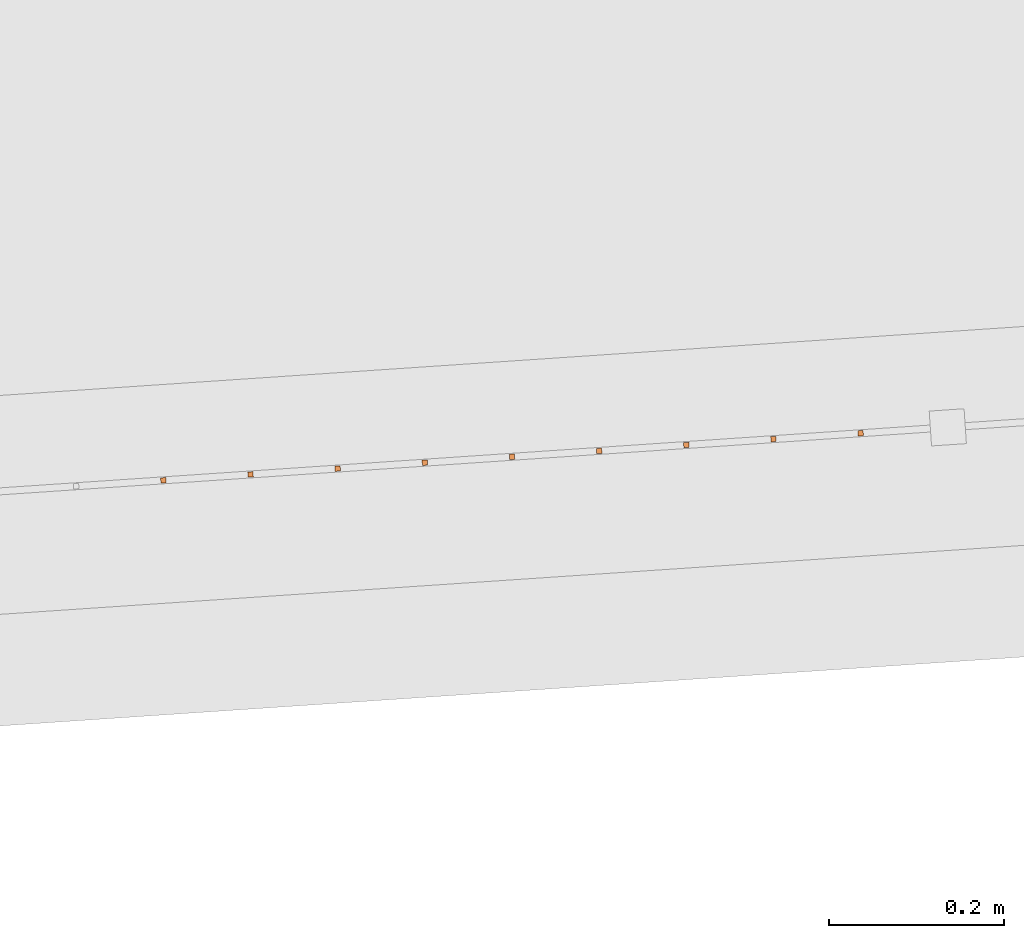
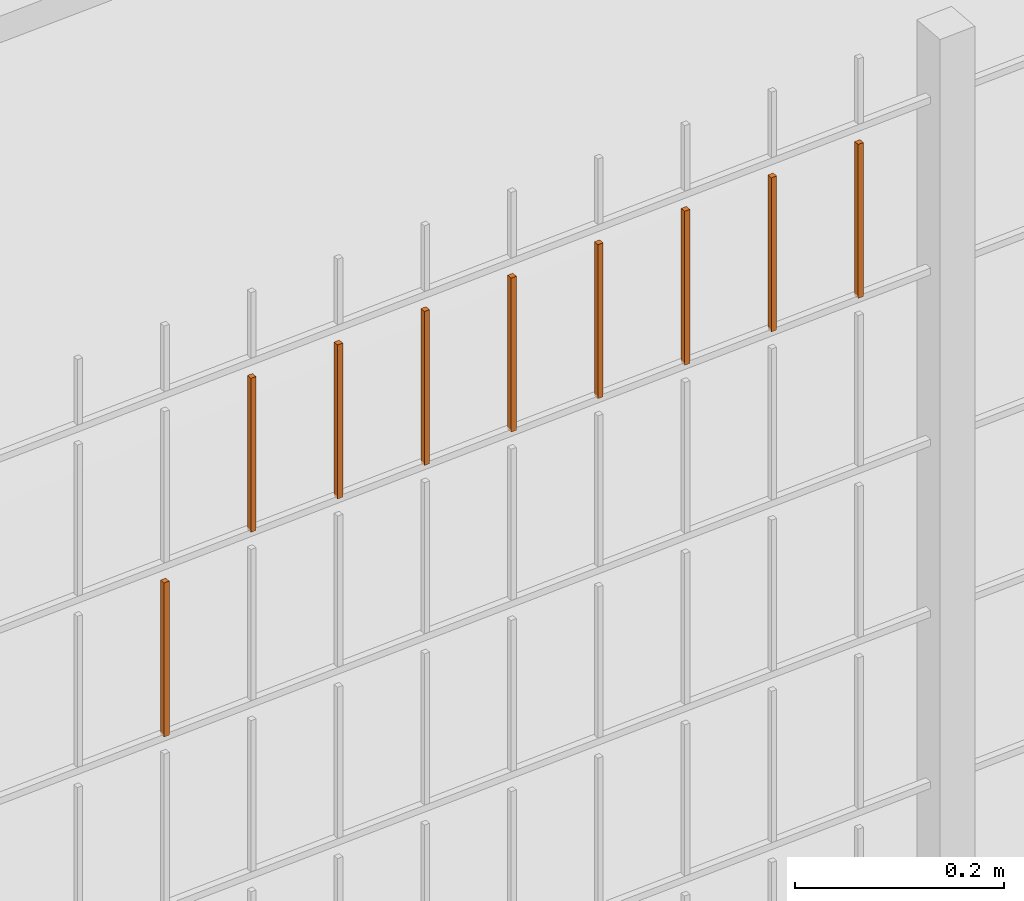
# One storey, part 264 of 1809: 9 proxies, 1 element without a shape of its own.
"""IFC2X3 building model written with IfcOpenShell, lengths in millimetres."""

from ifc_helpers import new_model, entity, si_unit, converted_unit, derived_unit, money_unit, direction, frame, origin_with_axes, place, context, subcontext, project, spatial, faceted_brep, source, transform, mapped, material, type_object, element, aggregate, save


model = new_model("IFC2X3")

# Units and contexts
model_context = context("Model", 3, precision=0.01, world=origin_with_axes(), true_north=direction((0.0, 1.0)))
body_context = subcontext(model_context, "Body", "Model", "MODEL_VIEW")
ifc_project = project(units=[si_unit("LENGTHUNIT", "METRE", prefix="MILLI"), si_unit("AREAUNIT", "SQUARE_METRE"), si_unit("VOLUMEUNIT", "CUBIC_METRE"), converted_unit("PLANEANGLEUNIT", "DEGREE", entity("IfcPlaneAngleMeasure", 0.0174532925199), si_unit("PLANEANGLEUNIT", "RADIAN"), dimensions=[0, 0, 0, 0, 0, 0, 0]), si_unit("SOLIDANGLEUNIT", "STERADIAN"), money_unit("EUR"), converted_unit("TIMEUNIT", "Year", entity("IfcTimeMeasure", 31556926.0), si_unit("TIMEUNIT", "SECOND"), dimensions=[0, 0, 1, 0, 0, 0, 0]), si_unit("MASSUNIT", "GRAM", prefix="KILO"), si_unit("THERMODYNAMICTEMPERATUREUNIT", "DEGREE_CELSIUS"), si_unit("LUMINOUSINTENSITYUNIT", "LUMEN"), si_unit("ENERGYUNIT", "JOULE", prefix="MEGA"), derived_unit("THERMALCONDUCTANCEUNIT", [(si_unit("POWERUNIT", "WATT"), 1), (si_unit("LENGTHUNIT", "METRE"), -1), (si_unit("THERMODYNAMICTEMPERATUREUNIT", "KELVIN"), -1)]), derived_unit("SPECIFICHEATCAPACITYUNIT", [(si_unit("ENERGYUNIT", "JOULE"), 1), (si_unit("MASSUNIT", "GRAM", prefix="KILO"), -1), (si_unit("THERMODYNAMICTEMPERATUREUNIT", "KELVIN"), -1)]), derived_unit("MASSDENSITYUNIT", [(si_unit("MASSUNIT", "GRAM", prefix="KILO"), 1), (si_unit("VOLUMEUNIT", "CUBIC_METRE"), -1)])], contexts=[model_context])

# Site, building, storey
site_placement = place(None, origin_with_axes())
site = spatial("IfcSite", under=ifc_project, at=site_placement, Name="Politse- ja Piirivalveameti ning Päästeameti ühishoone", CompositionType="ELEMENT")
building_placement = place(site_placement, origin_with_axes())
building = spatial("IfcBuilding", under=site, at=building_placement, Name="Politse- ja Piirivalveameti ning Päästeameti ühishoone", CompositionType="ELEMENT")
storey_placement = place(building_placement, origin_with_axes())
storey = spatial("IfcBuildingStorey", under=building, at=storey_placement, Name="Esimene korrus", CompositionType="ELEMENT", Elevation=0.0)

# Proxies
building_element_proxy_type_1 = type_object("IfcBuildingElementProxyType", Name="Railing Type", PredefinedType="NOTDEFINED")
proxy_1_placement = place(storey_placement, frame((89252.001212, -29183.4766571, 203.661247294), z_axis=(0.0, 0.0, 1.0), x_axis=(1.0, 0.0, 0.0)))
proxy_1 = element("IfcBuildingElementProxy", 1, at=proxy_1_placement, inside=storey, type_object=building_element_proxy_type_1, Name="PIIRDEAED")
ifc_material = material(Name="ET-03_Raud")
building_element_proxy_type_2 = type_object("IfcBuildingElementProxyType", Name="IfcBuildingElementProxy", PredefinedType="NOTDEFINED")
shared_shape_1 = source(origin_with_axes(), body_context, "Body", "Brep", [
    faceted_brep([(3.0, 3.0, -0.000752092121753), (-3.0, 3.0, -0.000752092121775), (-3.0, 3.0, 179.99926046), (3.0, 3.0, 179.99926046), (3.0, -3.0, 0.000752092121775), (-3.0, -3.0, 0.000752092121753), (-3.0, -3.0, 180.000764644), (3.0, -3.0, 180.000764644)], [[[0, 1, 2, 3]], [[0, 4, 5, 1]], [[1, 5, 6, 2]], [[3, 2, 6, 7]], [[4, 0, 3, 7]], [[5, 4, 7, 6]]]),
])
proxy_2_placement = place(proxy_1_placement, frame((-57695.2207427, -21194.8691889, 1812.73738669), z_axis=(0.0, 0.0, 1.0), x_axis=(1.0, 0.0, 0.0)))
proxy_2 = element("IfcBuildingElementProxy", 2, at=proxy_2_placement, type_object=building_element_proxy_type_2, material=ifc_material, Name="BALUSTER - 001", context=body_context, shape_type="MappedRepresentation", body=[
    mapped(shared_shape_1, transform((0.0, 0.0, 0.0), x_axis=(-0.0673926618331, 0.997726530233, 0.0), y_axis=(-0.997726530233, -0.0673926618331, 0.0), z_axis=(0.0, 0.0, 1.0))),
])
proxy_3_placement = place(proxy_1_placement, frame((-57794.9933957, -21201.608455, 1812.71231696), z_axis=(0.0, 0.0, 1.0), x_axis=(1.0, 0.0, 0.0)))
proxy_3 = element("IfcBuildingElementProxy", 3, at=proxy_3_placement, type_object=building_element_proxy_type_2, material=ifc_material, Name="BALUSTER - 001", context=body_context, shape_type="MappedRepresentation", body=[
    mapped(shared_shape_1, transform((0.0, 0.0, 0.0), x_axis=(-0.0673926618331, 0.997726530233, 0.0), y_axis=(-0.997726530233, -0.0673926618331, 0.0), z_axis=(0.0, 0.0, 1.0))),
])
shared_shape_2 = source(origin_with_axes(), body_context, "Body", "Brep", [
    faceted_brep([(3.0, 3.0, -0.000752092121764), (-3.0, 3.0, -0.000752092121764), (-3.0, 3.0, 179.99926046), (3.0, 3.0, 179.99926046), (3.0, -3.0, 0.000752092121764), (-3.0, -3.0, 0.000752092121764), (-3.0, -3.0, 180.000764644), (3.0, -3.0, 180.000764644)], [[[0, 1, 2, 3]], [[0, 4, 5, 1]], [[1, 5, 6, 2]], [[3, 2, 6, 7]], [[4, 0, 3, 7]], [[5, 4, 7, 6]]]),
])
proxy_4_placement = place(proxy_1_placement, frame((-57296.1301306, -21167.9121241, 1812.83766564), z_axis=(0.0, 0.0, 1.0), x_axis=(1.0, 0.0, 0.0)))
proxy_4 = element("IfcBuildingElementProxy", 4, at=proxy_4_placement, type_object=building_element_proxy_type_2, material=ifc_material, Name="BALUSTER - 001", context=body_context, shape_type="MappedRepresentation", body=[
    mapped(shared_shape_2, transform((0.0, 0.0, 0.0), x_axis=(-0.0673926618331, 0.997726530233, 0.0), y_axis=(-0.997726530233, -0.0673926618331, 0.0), z_axis=(0.0, 0.0, 1.0))),
])
shared_shape_3 = source(origin_with_axes(), body_context, "Body", "Brep", [
    faceted_brep([(3.0, 3.0, -0.000752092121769), (-3.0, 3.0, -0.000752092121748), (-3.0, 3.0, 179.99926046), (3.0, 3.0, 179.99926046), (3.0, -3.0, 0.000752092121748), (-3.0, -3.0, 0.000752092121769), (-3.0, -3.0, 180.000764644), (3.0, -3.0, 180.000764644)], [[[0, 1, 2, 3]], [[0, 4, 5, 1]], [[1, 5, 6, 2]], [[3, 2, 6, 7]], [[4, 0, 3, 7]], [[5, 4, 7, 6]]]),
])
proxy_5_placement = place(proxy_1_placement, frame((-57994.5387017, -21215.0869874, 1812.66217748), z_axis=(0.0, 0.0, 1.0), x_axis=(1.0, 0.0, 0.0)))
proxy_5 = element("IfcBuildingElementProxy", 5, at=proxy_5_placement, type_object=building_element_proxy_type_2, material=ifc_material, Name="BALUSTER - 001", context=body_context, shape_type="MappedRepresentation", body=[
    mapped(shared_shape_3, transform((0.0, 0.0, 0.0), x_axis=(-0.0673926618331, 0.997726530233, 0.0), y_axis=(-0.997726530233, -0.0673926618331, 0.0), z_axis=(0.0, 0.0, 1.0))),
])
shared_shape_4 = source(origin_with_axes(), body_context, "Body", "Brep", [
    faceted_brep([(3.0, 3.0, -0.000752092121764), (-3.0, 3.0, -0.000752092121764), (-3.0, 3.0, 179.99926046), (3.0, 3.0, 179.99926046), (3.0, -3.0, 0.000752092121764), (-3.0, -3.0, 0.000752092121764), (-3.0, -3.0, 180.000764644), (3.0, -3.0, 180.000764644)], [[[0, 1, 2, 3]], [[0, 4, 5, 1]], [[1, 5, 6, 2]], [[3, 2, 6, 7]], [[4, 0, 3, 7]], [[5, 4, 7, 6]]]),
])
proxy_6_placement = place(proxy_1_placement, frame((-57395.9027836, -21174.6513903, 1812.81259591), z_axis=(0.0, 0.0, 1.0), x_axis=(1.0, 0.0, 0.0)))
proxy_6 = element("IfcBuildingElementProxy", 6, at=proxy_6_placement, type_object=building_element_proxy_type_2, material=ifc_material, Name="BALUSTER - 001", context=body_context, shape_type="MappedRepresentation", body=[
    mapped(shared_shape_4, transform((0.0, 0.0, 0.0), x_axis=(-0.0673926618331, 0.997726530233, 0.0), y_axis=(-0.997726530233, -0.0673926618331, 0.0), z_axis=(0.0, 0.0, 1.0))),
])
shared_shape_5 = source(origin_with_axes(), body_context, "Body", "Brep", [
    faceted_brep([(3.0, 3.0, -0.000752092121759), (-3.0, 3.0, -0.000752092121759), (-3.0, 3.0, 179.99926046), (3.0, 3.0, 179.99926046), (3.0, -3.0, 0.000752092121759), (-3.0, -3.0, 0.000752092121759), (-3.0, -3.0, 180.000764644), (3.0, -3.0, 180.000764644)], [[[0, 1, 2, 3]], [[0, 4, 5, 1]], [[1, 5, 6, 2]], [[3, 2, 6, 7]], [[4, 0, 3, 7]], [[5, 4, 7, 6]]]),
])
proxy_7_placement = place(proxy_1_placement, frame((-57595.4480896, -21188.1299227, 1812.76245643), z_axis=(0.0, 0.0, 1.0), x_axis=(1.0, 0.0, 0.0)))
proxy_7 = element("IfcBuildingElementProxy", 7, at=proxy_7_placement, type_object=building_element_proxy_type_2, material=ifc_material, Name="BALUSTER - 001", context=body_context, shape_type="MappedRepresentation", body=[
    mapped(shared_shape_5, transform((0.0, 0.0, 0.0), x_axis=(-0.0673926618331, 0.997726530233, 0.0), y_axis=(-0.997726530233, -0.0673926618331, 0.0), z_axis=(0.0, 0.0, 1.0))),
])
shared_shape_6 = source(origin_with_axes(), body_context, "Body", "Brep", [
    faceted_brep([(3.0, 3.0, -0.000752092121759), (-3.0, 3.0, -0.000752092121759), (-3.0, 3.0, 179.99926046), (3.0, 3.0, 179.99926046), (3.0, -3.0, 0.000752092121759), (-3.0, -3.0, 0.000752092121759), (-3.0, -3.0, 180.000764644), (3.0, -3.0, 180.000764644)], [[[0, 1, 2, 3]], [[0, 4, 5, 1]], [[1, 5, 6, 2]], [[3, 2, 6, 7]], [[4, 0, 3, 7]], [[5, 4, 7, 6]]]),
])
proxy_8_placement = place(proxy_1_placement, frame((-58094.3113548, -21221.8262536, 1612.63710774), z_axis=(0.0, 0.0, 1.0), x_axis=(1.0, 0.0, 0.0)))
proxy_8 = element("IfcBuildingElementProxy", 8, at=proxy_8_placement, type_object=building_element_proxy_type_2, material=ifc_material, Name="BALUSTER - 001", context=body_context, shape_type="MappedRepresentation", body=[
    mapped(shared_shape_6, transform((0.0, 0.0, 0.0), x_axis=(-0.0673926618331, 0.997726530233, 0.0), y_axis=(-0.997726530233, -0.0673926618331, 0.0), z_axis=(0.0, 0.0, 1.0))),
])
shared_shape_7 = source(origin_with_axes(), body_context, "Body", "Brep", [
    faceted_brep([(3.0, 3.0, -0.000752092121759), (-3.0, 3.0, -0.000752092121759), (-3.0, 3.0, 179.99926046), (3.0, 3.0, 179.99926046), (3.0, -3.0, 0.000752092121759), (-3.0, -3.0, 0.000752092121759), (-3.0, -3.0, 180.000764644), (3.0, -3.0, 180.000764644)], [[[0, 1, 2, 3]], [[0, 4, 5, 1]], [[1, 5, 6, 2]], [[3, 2, 6, 7]], [[4, 0, 3, 7]], [[5, 4, 7, 6]]]),
])
proxy_9_placement = place(proxy_1_placement, frame((-57495.6754366, -21181.3906565, 1812.78752617), z_axis=(0.0, 0.0, 1.0), x_axis=(1.0, 0.0, 0.0)))
proxy_9 = element("IfcBuildingElementProxy", 9, at=proxy_9_placement, type_object=building_element_proxy_type_2, material=ifc_material, Name="BALUSTER - 001", context=body_context, shape_type="MappedRepresentation", body=[
    mapped(shared_shape_7, transform((0.0, 0.0, 0.0), x_axis=(-0.0673926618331, 0.997726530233, 0.0), y_axis=(-0.997726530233, -0.0673926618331, 0.0), z_axis=(0.0, 0.0, 1.0))),
])
shared_shape_8 = source(origin_with_axes(), body_context, "Body", "Brep", [
    faceted_brep([(3.0, 3.0, -0.000752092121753), (-3.0, 3.0, -0.000752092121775), (-3.0, 3.0, 179.99926046), (3.0, 3.0, 179.99926046), (3.0, -3.0, 0.000752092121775), (-3.0, -3.0, 0.000752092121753), (-3.0, -3.0, 180.000764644), (3.0, -3.0, 180.000764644)], [[[0, 1, 2, 3]], [[0, 4, 5, 1]], [[1, 5, 6, 2]], [[3, 2, 6, 7]], [[4, 0, 3, 7]], [[5, 4, 7, 6]]]),
])
proxy_10_placement = place(proxy_1_placement, frame((-57894.7660487, -21208.3477212, 1812.68724722), z_axis=(0.0, 0.0, 1.0), x_axis=(1.0, 0.0, 0.0)))
proxy_10 = element("IfcBuildingElementProxy", 10, at=proxy_10_placement, type_object=building_element_proxy_type_2, material=ifc_material, Name="BALUSTER - 001", context=body_context, shape_type="MappedRepresentation", body=[
    mapped(shared_shape_8, transform((0.0, 0.0, 0.0), x_axis=(-0.0673926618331, 0.997726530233, 0.0), y_axis=(-0.997726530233, -0.0673926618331, 0.0), z_axis=(0.0, 0.0, 1.0))),
])
aggregate(proxy_1, [proxy_8, proxy_4, proxy_6, proxy_9, proxy_7, proxy_2, proxy_3, proxy_10, proxy_5])

save(model, "model.ifc")
